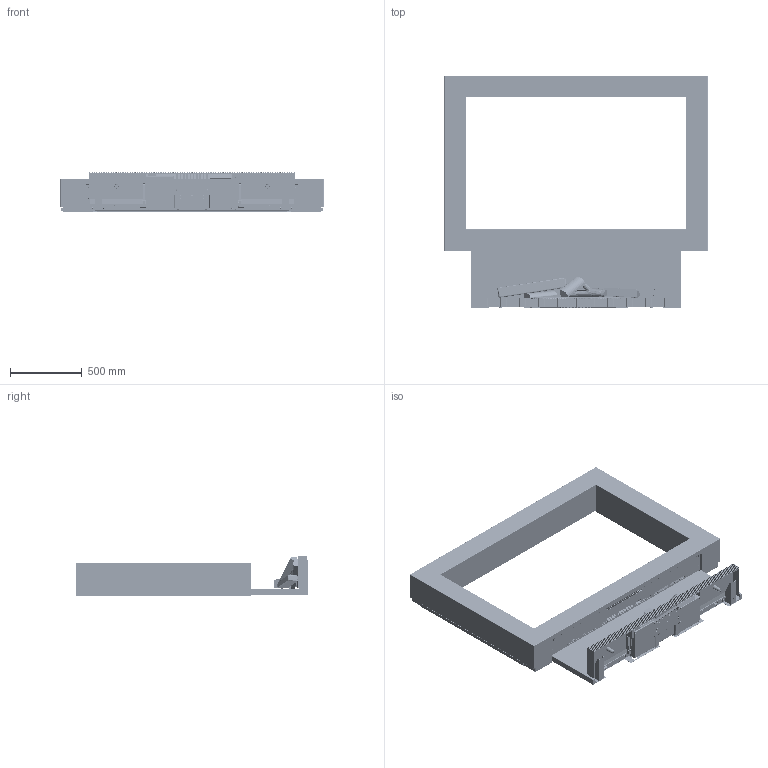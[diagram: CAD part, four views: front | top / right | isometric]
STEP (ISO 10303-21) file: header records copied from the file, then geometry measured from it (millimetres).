
FILE_DESCRIPTION (( 'STEP AP203' ), '1' );
FILE_NAME ('E Series E65 Media Wall with LED.STEP', '2024-03-12T11:34:45', ( '' ), ( '' ), 'SwSTEP 2.0', 'SolidWorks 2020', '' );
FILE_SCHEMA (( 'CONFIG_CONTROL_DESIGN' ));
Length unit declared in the file: millimetre
Products named in the file (93): KF05976; KF05900; KF06360; KF04060; KF06369; KF06350; KF05901; KF06681; KF06459; E Series E65 Media Wall with LED; KF06611; KF05884; KF06351; KF06604; KF06088; KF06112; KF06370; KF01932_Phoenix 3273272; KF06607; KF05909; KF04003; KF05977; KF06357; KF06364; KF05879; KF05869; KF06113; KF05934_Built in; KF04079; KF04074; KF06083_Built in version; KF04021; KF06368; KF06606; KF05914; KF05861; KF06605; KF06684_Built in; KF05924; KF06372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
Assembly tree (234 placements, depth 6):
  E Series E65 Media Wall with LED
    KF05881_Inschijner
      KF05976
      KF06112
        KF05883
        KF06109
      KF06113
        KF05884
        KF06109
      KF06679  x2
    KF05923
    KF05915  x2
    KF04164  x6
    KF06219
      KF06372
        KF05932
          KF05927
          KF04020  x5
          KF04060  x4
        KF05930  x2
          KF05924
          KF04020
        KF05910
          KF05901
          KF04079  x2
          KF04020  x3
        KF05909
          KF05900
          KF04079  x2
          KF04020  x3
        KF05934_Built in
          KF06148_Built in 
          KF04020  x2
          KF04060  x4
        KF05928
        KF05846  x2
          KF05847
          KF06057
          KF04020
          KF06545
        KF06370
          KF06369
          KF04020
        KF06368
          KF06364
          KF04020
        KF06124
        KF06125
        KF06460  x2
        KF06681
          KF06683_Built in
          KF06684_Built in
          KF06717_Left - Bend 
          KF06717_Right - Bend
      KF05972
        KF05844
          KF05845
          KF04895  x5
        KF05849
      KF05969_ISO 14579 M6 x 10 - 10N[Galvanized]  x2
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Bounding box: 1830 x 1619.11 x 280.5 mm (x, y, z)
Volume: 70069236.4 mm3; surface area: 16925369 mm2
Topology: 238 solids, 287 shells, 19015 faces, 49311 edges, 31277 vertices
Faces by surface type: plane 12561, cylinder 4386, cone 1524, bspline 289, torus 189, sphere 66
Entity records: 442408 total; most frequent: CARTESIAN_POINT 108505, ORIENTED_EDGE 67736, DIRECTION 64387, EDGE_CURVE 33868, VECTOR 25767, LINE 25767, VERTEX_POINT 21455, AXIS2_PLACEMENT_3D 19310
